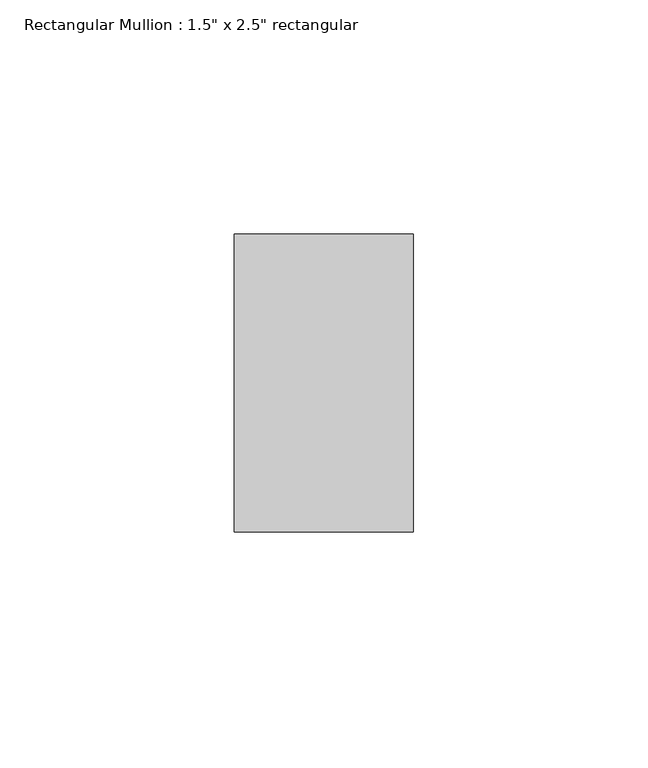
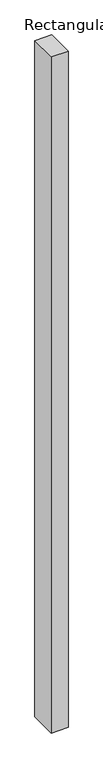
"""IFC4 building model written with IfcOpenShell, lengths in millimetres: member geometry."""

from ifc_helpers import new_model, si_unit, frame, origin, place, context, project, spatial, polyline, outline, extrude, source, transform, mapped, element, save


def member_ce78e4f5(model_context):
    return source(origin(), model_context, "Body", "SweptSolid", [
        extrude(outline(polyline([(0.0, 31.75), (0.0, -31.75), (-38.1, -31.75), (-38.1, 31.75), (0.0, 31.75)])), frame((0.0, 0.0, -1613.6847358), z_axis=(0.0, 0.0, 1.0), x_axis=(1.0, 0.0, 0.0)), (0.0, 0.0, 1.0), 1613.6847358),
    ])


if __name__ == "__main__":
    model = new_model("IFC4")
    model_context = context("Model", 3, world=origin())
    ifc_project = project(units=[si_unit("LENGTHUNIT", "METRE", prefix="MILLI")], contexts=[model_context])
    site = spatial("IfcSite", under=ifc_project)
    building = spatial("IfcBuilding", under=site)
    placement = place(None, origin())
    member_shape = member_ce78e4f5(model_context)
    element("IfcMember", 1, ObjectType="Rectangular Mullion : 1.5\" x 2.5\" rectangular", at=placement, inside=building, context=model_context, shape_type="MappedRepresentation", body=[
        mapped(member_shape, transform((0.0, 0.0, 0.0), x_axis=(1.0, 0.0, 0.0), y_axis=(0.0, 1.0, 0.0), z_axis=(0.0, 0.0, 1.0))),
    ])
    save(model, "model.ifc")
